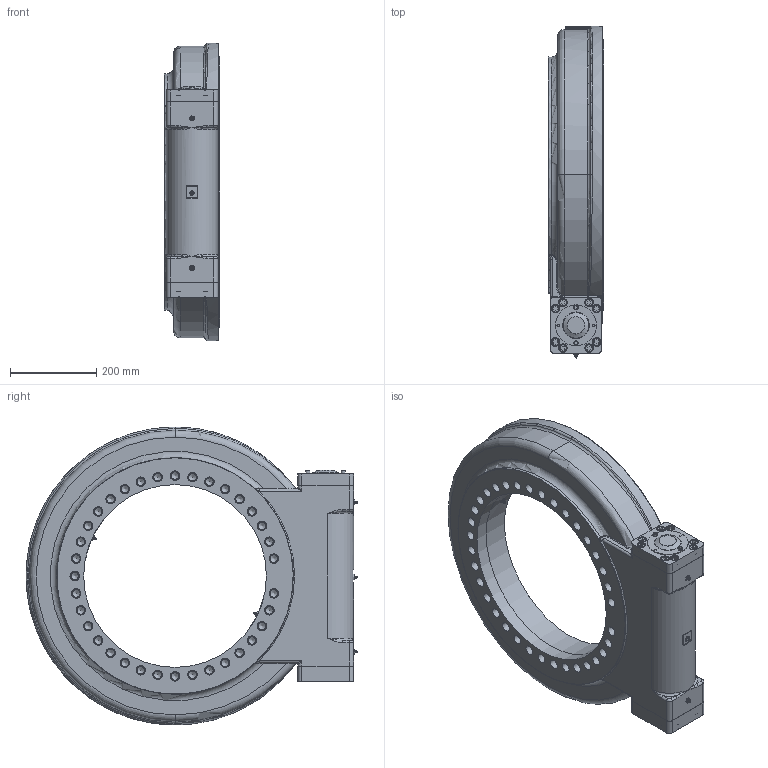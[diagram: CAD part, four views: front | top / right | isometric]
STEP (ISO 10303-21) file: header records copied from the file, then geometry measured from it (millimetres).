
FILE_DESCRIPTION (( 'STEP AP214' ), '1' );
FILE_NAME ('FWA21-90M-25H-R-REV.A.STEP', '2022-10-20T00:25:59', ( '' ), ( '' ), 'SwSTEP 2.0', 'SolidWorks 2018', '' );
FILE_SCHEMA (( 'AUTOMOTIVE_DESIGN' ));
Length unit declared in the file: millimetre
Products named in the file (1): FWA21-90M-25H-R-REV.A
Bounding box: 130 x 771.76 x 693 mm (x, y, z)
Volume: 20728475.4 mm3; surface area: 2879604.9 mm2
Topology: 30 solids, 31 shells, 1252 faces, 2678 edges, 1661 vertices
Faces by surface type: plane 498, cylinder 428, cone 149, torus 89, bspline 77, sphere 11
Full cylindrical faces by diameter (mm): 5 x4, 6 x4, 7 x9, 8 x3, 8.5 x2, 10 x17, 10.2 x18, 11.5 x4, 12 x2, 13.5 x16, 16 x4, 17.5 x75, 18 x16, 19 x2, 20 x88, 22 x35, 25.4 x1, 33.5 x1, 55 x5, 57 x1, 58.102 x1, 58.387 x1, 59.805 x1, 76.841 x1, 78.585 x1, 82.55 x1, 85 x4, 86 x2, 90 x2, 95 x1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
Entity records: 49666 total; most frequent: CARTESIAN_POINT 11197, DIRECTION 5234, ORIENTED_EDGE 3942, AXIS2_PLACEMENT_3D 2253, EDGE_LOOP 2117, EDGE_CURVE 1971, FACE_OUTER_BOUND 1644, VERTEX_POINT 1520
